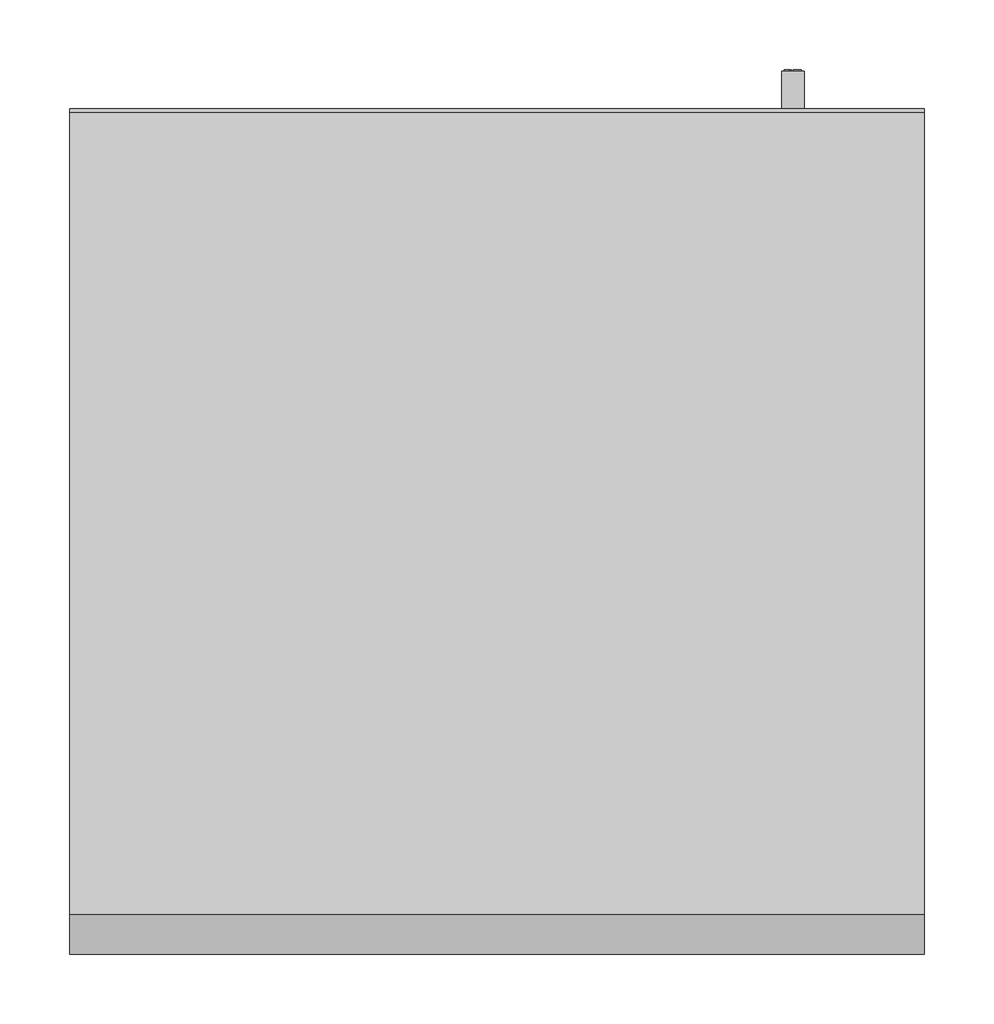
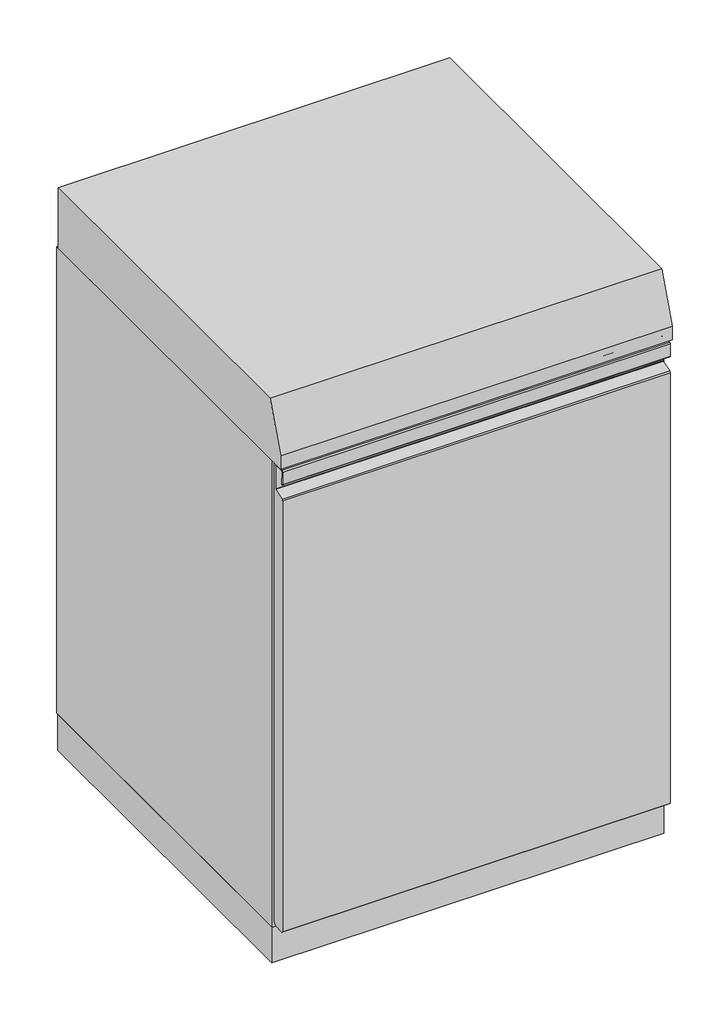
# Not in any storey: 1 proxy.
"""IFC4 building model written with IfcOpenShell, lengths in millimetres."""

from ifc_helpers import new_model, si_unit, origin, place, context, project, spatial, transform, mapped, element, save
from components import specialty_equipment_d600704f

model = new_model("IFC4")

# Units and contexts
model_context = context("Model", 3, world=origin())
ifc_project = project(units=[si_unit("LENGTHUNIT", "METRE", prefix="MILLI")], contexts=[model_context])

# Site, building
site = spatial("IfcSite", under=ifc_project)
building = spatial("IfcBuilding", under=site)

# Proxy
placement = place(None, origin())
specialty_equipment_shape = specialty_equipment_d600704f(model_context)
element("IfcBuildingElementProxy", 1, Name="12922340_D_ORD1224WBL : 331B2DRW_D_12922340_ORD1224WBL", ObjectType="12922340_D_ORD1224WBL : 331B2DRW_D_12922340_ORD1224WBL", at=placement, inside=building, context=model_context, shape_type="MappedRepresentation", body=[
    mapped(specialty_equipment_shape, transform((0.0, 0.0, 0.0), x_axis=(1.0, 0.0, 0.0), y_axis=(0.0, 1.0, 0.0), z_axis=(0.0, 0.0, 1.0))),
])

save(model, "model.ifc")
